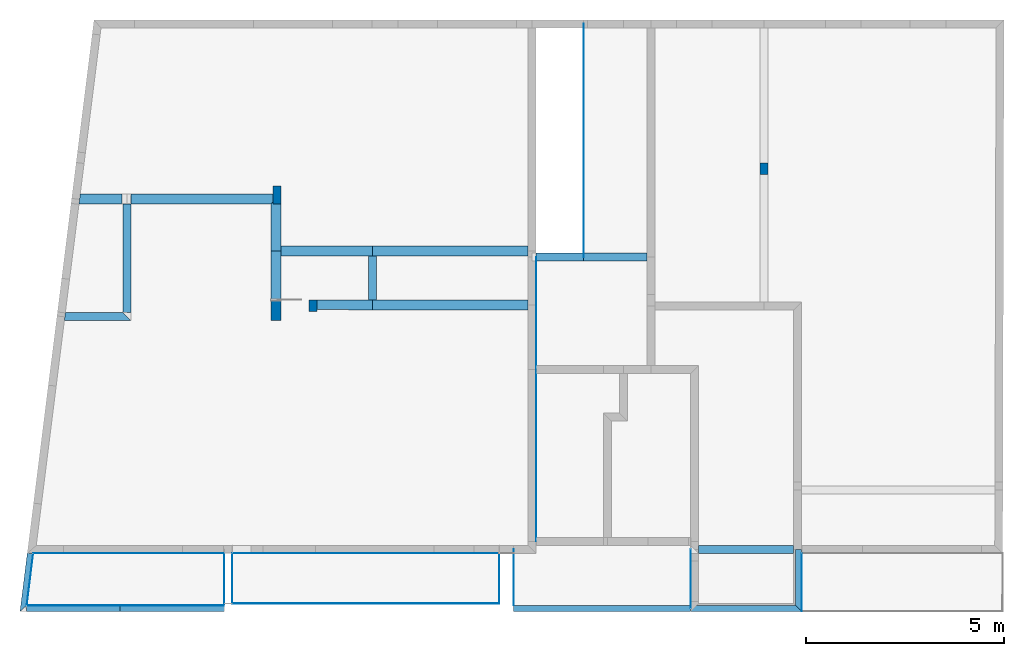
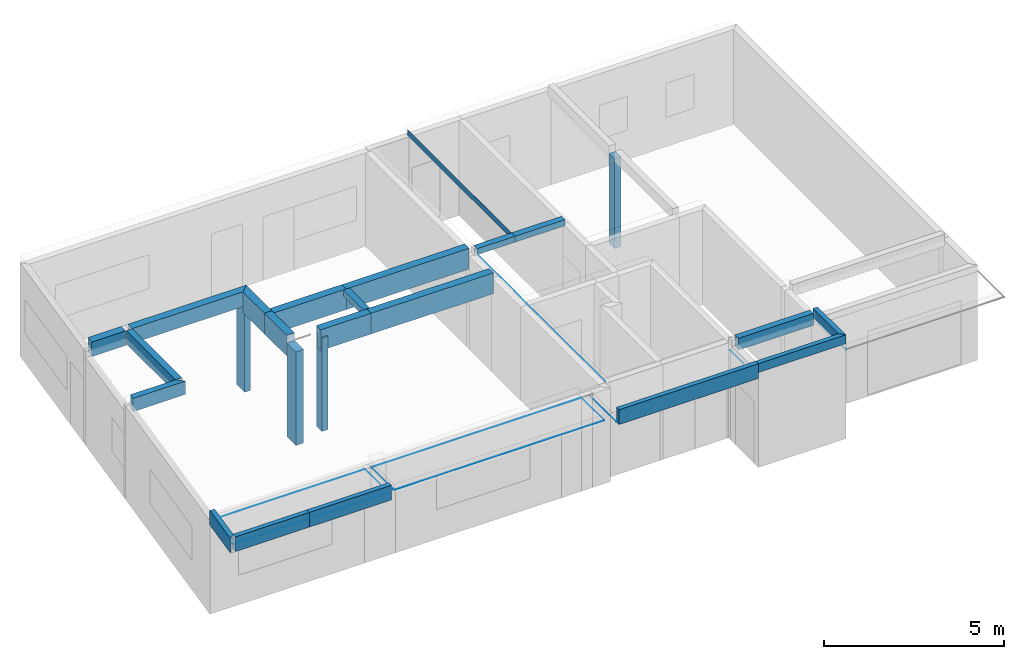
# One storey, part 1 of 17: 34 beams, 4 columns.
"""IFC2X3 building model written with IfcOpenShell, lengths in metres."""

from ifc_helpers import new_model, si_unit, direction, frame, origin_with_axes, origin_2d, place, context, subcontext, project, spatial, polyline, rectangle, outline, extrude, material, type_object, element, save


model = new_model("IFC2X3")

# Units and contexts
model_context = context("Model", 3, precision=0.0001, world=origin_with_axes(), true_north=direction((0.0, 1.0)))
plan_context = context("Plan", 2, precision=0.0001, world=origin_with_axes(), true_north=direction((0.0, 1.0)))
body_context = subcontext(model_context, "Body", "Model", "MODEL_VIEW")
ifc_project = project(units=[si_unit("MASSUNIT", "GRAM", prefix="KILO"), si_unit("AREAUNIT", "SQUARE_METRE"), si_unit("LENGTHUNIT", "METRE"), si_unit("VOLUMEUNIT", "CUBIC_METRE")], contexts=[plan_context, model_context])

# Site, building, storey
site_placement = place(None, origin_with_axes())
site = spatial("IfcSite", under=ifc_project, at=site_placement, Name="$", CompositionType="ELEMENT")
building_placement = place(site_placement, origin_with_axes())
building = spatial("IfcBuilding", under=site, at=building_placement, Name="Classeur ENS Ensemble", CompositionType="ELEMENT")
storey_placement = place(building_placement, frame((-20.30778888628, -1.812671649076, 0.0), z_axis=(0.0, 0.0, 1.0), x_axis=(1.0, 0.0, 0.0)))
storey = spatial("IfcBuildingStorey", under=building, at=storey_placement, Name="001 RdC", CompositionType="ELEMENT", Elevation=0.0)

# Columns
ifc_material = material(Name="Default material")
column_type = type_object("IfcColumnType", PredefinedType="COLUMN")
column_1_placement = place(storey_placement, frame((24.91829531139, -5.537328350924, -0.119999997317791), z_axis=(0.0, 0.0, 1.0), x_axis=(1.0, 0.0, 0.0)))
element("IfcColumn", 1, at=column_1_placement, inside=storey, type_object=column_type, material=ifc_material, Name="Poteau BA", context=body_context, shape_type="SweptSolid", held_by="IfcProductRepresentation", body=[
    extrude(rectangle(XDim=0.25, YDim=0.5, at=origin_2d()), origin_with_axes(), (0.0, 0.0, 1.0), 3.170000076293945),
])
column_2_placement = place(storey_placement, frame((25.85106533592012, -5.417479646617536, -0.119999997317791), z_axis=(0.0, 0.0, 1.0), x_axis=(1.0, 0.0, 0.0)))
element("IfcColumn", 2, at=column_2_placement, inside=storey, type_object=column_type, material=ifc_material, Name="Poteau BA", context=body_context, shape_type="SweptSolid", held_by="IfcProductRepresentation", body=[
    extrude(rectangle(XDim=0.2000000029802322, YDim=0.300000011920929, at=origin_2d()), origin_with_axes(), (0.0, 0.0, 1.0), 3.170000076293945),
])
column_3_placement = place(storey_placement, frame((24.94329531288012, -2.622471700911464, -0.119999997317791), z_axis=(0.0, 0.0, 1.0), x_axis=(1.0, 0.0, 0.0)))
element("IfcColumn", 3, at=column_3_placement, inside=storey, type_object=column_type, material=ifc_material, Name="Poteau BA", context=body_context, shape_type="SweptSolid", held_by="IfcProductRepresentation", body=[
    extrude(rectangle(XDim=0.2000000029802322, YDim=0.449999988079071, at=origin_2d()), origin_with_axes(), (0.0, 0.0, 1.0), 3.170000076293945),
])
column_4_placement = place(storey_placement, frame((37.23329531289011, -1.962328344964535, 0.0), z_axis=(0.0, 0.0, 1.0), x_axis=(1.0, 0.0, 0.0)))
element("IfcColumn", 4, at=column_4_placement, inside=storey, type_object=column_type, material=ifc_material, Name="Poteau BA", context=body_context, shape_type="SweptSolid", held_by="IfcProductRepresentation", body=[
    extrude(rectangle(XDim=0.2000000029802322, YDim=0.300000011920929, at=origin_2d()), origin_with_axes(), (0.0, 0.0, 1.0), 3.049999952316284),
])

# Beams
beam_type = type_object("IfcBeamType", PredefinedType="BEAM")
beam_1_placement = place(storey_placement, frame((24.91829531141, -4.032328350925, 2.599999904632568), z_axis=(0.0, 0.0, 1.0), x_axis=(1.0, 0.0, 0.0)))
element("IfcBeam", 5, at=beam_1_placement, inside=storey, type_object=beam_type, material=ifc_material, Name="poutre BA", context=body_context, shape_type="SweptSolid", held_by="IfcProductRepresentation", body=[
    extrude(outline(polyline([(0.125, 0.125), (0.125, 0.125), (0.125, 0.125), (2.434999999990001, 0.125), (2.434999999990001, 0.125), (2.434999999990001, 0.125), (2.434999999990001, -0.125), (2.334999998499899, -0.125), (2.334999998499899, -0.125), (0.125, -0.125), (0.125, -0.125), (0.125, -0.125), (0.125, 0.125)])), origin_with_axes(), (0.0, 0.0, 1.0), 0.699999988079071),
])
beam_2_placement = place(storey_placement, frame((24.91829531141, -4.032328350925, 2.599999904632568), z_axis=(0.0, 0.0, 1.0), x_axis=(0.0, 1.0, 0.0)))
element("IfcBeam", 6, at=beam_2_placement, inside=storey, type_object=beam_type, material=ifc_material, Name="poutre BA", context=body_context, shape_type="SweptSolid", held_by="IfcProductRepresentation", body=[
    extrude(outline(polyline([(0.0, 0.125), (0.0, 0.125), (0.0, 0.125), (1.184999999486, 0.125), (1.184999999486, 0.125), (1.184999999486, 0.125), (1.434999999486, -0.125), (1.434999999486, -0.125), (1.434999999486, -0.125), (0.125, -0.125), (0.125, -0.125), (0.0, -0.125), (0.0, 0.125)])), origin_with_axes(), (0.0, 0.0, 1.0), 0.699999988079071),
])
beam_3_placement = place(storey_placement, frame((25.75084280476, -5.3924794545, 2.599999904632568), z_axis=(0.0, 0.0, 1.0), x_axis=(0.9999984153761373, -0.001780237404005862, 0.0)))
element("IfcBeam", 7, at=beam_3_placement, inside=storey, type_object=beam_type, material=ifc_material, Name="poutre BA", context=body_context, shape_type="SweptSolid", held_by="IfcProductRepresentation", body=[
    extrude(outline(polyline([(3.557050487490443e-15, 0.1250000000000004), (3.557050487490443e-15, 0.1250000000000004), (3.557050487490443e-15, 0.1250000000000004), (1.502232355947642, 0.1249999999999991), (1.502232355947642, 0.1249999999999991), (1.602455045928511, 0.1250000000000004), (1.602455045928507, -0.1250000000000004), (1.602455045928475, -0.1250000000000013), (1.602455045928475, -0.1250000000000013), (-4.336808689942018e-18, -0.1250000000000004), (-4.336808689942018e-18, -0.1250000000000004), (-4.336808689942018e-18, -0.1250000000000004), (3.557050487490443e-15, 0.1250000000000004)])), origin_with_axes(), (0.0, 0.0, 1.0), 0.699999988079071),
])
beam_4_placement = place(storey_placement, frame((19.86113903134, -2.722328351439, 2.799999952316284), z_axis=(0.0, 0.0, 1.0), x_axis=(1.0, 0.0, 0.0)))
element("IfcBeam", 8, at=beam_4_placement, inside=storey, type_object=beam_type, material=ifc_material, Name="poutre BA", context=body_context, shape_type="SweptSolid", held_by="IfcProductRepresentation", body=[
    extrude(outline(polyline([(0.1164247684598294, 0.125), (0.1164247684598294, 0.125), (0.1164247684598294, 0.125), (1.171206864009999, 0.125), (1.171206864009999, 0.125), (1.171206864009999, 0.125), (1.171206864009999, -0.125), (1.171206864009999, -0.1250000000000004), (1.171206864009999, -0.1250000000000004), (0.0851355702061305, -0.1250000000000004), (0.0851355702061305, -0.1250000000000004), (0.0851355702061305, -0.1250000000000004), (0.1164247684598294, 0.125)])), origin_with_axes(), (0.0, 0.0, 1.0), 0.5),
])
beam_5_placement = place(storey_placement, frame((24.91829531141, -5.267471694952, 2.599999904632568), z_axis=(0.0, 0.0, 1.0), x_axis=(0.0, 1.0, 0.0)))
element("IfcBeam", 9, at=beam_5_placement, inside=storey, type_object=beam_type, material=ifc_material, Name="poutre BA", context=body_context, shape_type="SweptSolid", held_by="IfcProductRepresentation", body=[
    extrude(outline(polyline([(0.0, 0.125), (0.0, 0.125), (0.0, 0.125), (1.235143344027, 0.125), (1.235143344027, 0.125), (1.235143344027, 0.125), (1.235143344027, -0.125), (1.110143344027, -0.125), (1.110143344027, -0.125), (0.0, -0.125), (0.0, -0.125), (0.0, -0.125), (0.0, 0.125)])), origin_with_axes(), (0.0, 0.0, 1.0), 0.699999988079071),
])
beam_6_placement = place(storey_placement, frame((38.18329531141, -13.13232835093, 2.900000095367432), z_axis=(0.0, 0.0, 1.0), x_axis=(0.0, 1.0, 0.0)))
element("IfcBeam", 10, at=beam_6_placement, inside=storey, type_object=beam_type, material=ifc_material, Name="poutre fictive", context=body_context, shape_type="SweptSolid", held_by="IfcProductRepresentation", body=[
    extrude(outline(polyline([(0.0, 0.0009999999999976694), (0.0, 0.0009999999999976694), (0.0, 0.0009999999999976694), (1.465000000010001, 0.0009999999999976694), (1.465000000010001, 0.0009999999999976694), (1.465000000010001, 0.0009999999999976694), (1.465000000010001, -0.001000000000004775), (1.465000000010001, -0.001000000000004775), (1.465000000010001, -0.001000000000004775), (0.0, -0.001000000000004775), (0.0, -0.001000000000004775), (0.0, -0.001000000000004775), (0.0, 0.0009999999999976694)])), origin_with_axes(), (0.0, 0.0, 1.0), 0.001),
])
beam_7_placement = place(storey_placement, frame((32.6832953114, -4.191140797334, 3.099999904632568), z_axis=(0.0, 0.0, 1.0), x_axis=(-1.342671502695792e-10, 1.0, 0.0)))
element("IfcBeam", 11, at=beam_7_placement, inside=storey, type_object=beam_type, material=ifc_material, Name="Poutre auto", context=body_context, shape_type="SweptSolid", held_by="IfcProductRepresentation", body=[
    extrude(outline(polyline([(1.522088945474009e-16, 0.0009999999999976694), (1.522088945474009e-16, 0.0009999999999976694), (1.522088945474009e-16, 0.0009999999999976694), (5.88381244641, 0.0009999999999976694), (5.88381244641, 0.0009999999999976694), (5.88381244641, 0.0009999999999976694), (5.88381244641, -0.0009999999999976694), (5.88381244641, -0.0009999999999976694), (5.88381244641, -0.0009999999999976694), (7.359695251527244e-16, -0.0009999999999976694), (7.359695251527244e-16, -0.0009999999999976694), (7.359695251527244e-16, -0.0009999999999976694), (1.522088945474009e-16, 0.0009999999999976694)])), origin_with_axes(), (0.0, 0.0, 1.0), 0.2000000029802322),
])
beam_8_placement = place(storey_placement, frame((21.2532953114, -2.722328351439, 2.799999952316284), z_axis=(0.0, 0.0, 1.0), x_axis=(0.9999999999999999, 0.0, 0.0)))
element("IfcBeam", 12, at=beam_8_placement, inside=storey, type_object=beam_type, material=ifc_material, Name="poutre BA", context=body_context, shape_type="SweptSolid", held_by="IfcProductRepresentation", body=[
    extrude(outline(polyline([(0.0, 0.125), (0.0, 0.125), (0.0, 0.125), (3.790000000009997, 0.125), (3.790000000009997, 0.125), (3.790000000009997, 0.125), (3.540000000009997, -0.125), (3.540000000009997, -0.125), (3.540000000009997, -0.125), (0.0, -0.125), (0.0, -0.125), (0.0, -0.125), (0.0, 0.125)])), origin_with_axes(), (0.0, 0.0, 1.0), 0.5),
])
beam_9_placement = place(storey_placement, frame((19.49004914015, -5.687328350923, 2.849999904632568), z_axis=(0.0, 0.0, 1.0), x_axis=(1.0, 0.0, 0.0)))
element("IfcBeam", 13, at=beam_9_placement, inside=storey, type_object=beam_type, material=ifc_material, Name="poutre BA", context=body_context, shape_type="SweptSolid", held_by="IfcProductRepresentation", body=[
    extrude(outline(polyline([(0.1132958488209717, 0.1000000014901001), (0.1132958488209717, 0.1000000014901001), (0.1132958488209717, 0.1000000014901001), (1.5632461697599, 0.1000000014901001), (1.5632461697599, 0.1000000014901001), (1.5632461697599, 0.1000000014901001), (1.763246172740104, -0.1000000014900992), (1.763246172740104, -0.1000000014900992), (1.763246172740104, -0.1000000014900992), (0.08826448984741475, -0.1000000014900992), (0.08826448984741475, -0.1000000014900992), (0.08826448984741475, -0.1000000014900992), (0.1132958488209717, 0.1000000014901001)])), origin_with_axes(), (0.0, 0.0, 1.0), 0.449999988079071),
])
beam_10_placement = place(storey_placement, frame((21.1532953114, -5.587328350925, 2.849999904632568), z_axis=(0.0, 0.0, 1.0), x_axis=(0.0, 1.0, 0.0)))
element("IfcBeam", 14, at=beam_10_placement, inside=storey, type_object=beam_type, material=ifc_material, Name="poutre BA", context=body_context, shape_type="SweptSolid", held_by="IfcProductRepresentation", body=[
    extrude(outline(polyline([(0.0, 0.1000000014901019), (0.0, 0.1000000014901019), (0.0, 0.1000000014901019), (2.740016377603, 0.1000000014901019), (2.740016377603, 0.1000000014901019), (2.740016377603, 0.1000000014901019), (2.740016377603, -0.1000000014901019), (2.740016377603, -0.1000000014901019), (2.740016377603, -0.1000000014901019), (0.0, -0.1000000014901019), (0.0, -0.1000000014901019), (0.0, -0.1000000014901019), (0.0, 0.1000000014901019)])), origin_with_axes(), (0.0, 0.0, 1.0), 0.449999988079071),
])
beam_11_placement = place(storey_placement, frame((32.6832953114, -4.191140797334, 3.099999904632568), z_axis=(0.0, 0.0, 1.0), x_axis=(0.9999999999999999, 0.0, 0.0)))
element("IfcBeam", 15, at=beam_11_placement, inside=storey, type_object=beam_type, material=ifc_material, Name="poutre BA", context=body_context, shape_type="SweptSolid", held_by="IfcProductRepresentation", body=[
    extrude(outline(polyline([(0.0, 0.1000000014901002), (0.0, 0.1000000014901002), (0.0, 0.1000000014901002), (1.599999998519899, 0.1000000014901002), (1.599999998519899, 0.1000000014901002), (1.599999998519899, 0.1000000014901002), (1.599999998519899, -0.1000000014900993), (1.599999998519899, -0.1000000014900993), (1.599999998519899, -0.1000000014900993), (0.0, -0.1000000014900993), (0.0, -0.1000000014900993), (0.0, -0.1000000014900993), (0.0, 0.1000000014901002)])), origin_with_axes(), (0.0, 0.0, 1.0), 0.2000000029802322),
])
beam_12_placement = place(storey_placement, frame((31.4832953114, -7.027328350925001, 3.099999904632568), z_axis=(0.0, 0.0, 1.0), x_axis=(0.0, 1.0, 0.0)))
element("IfcBeam", 16, at=beam_12_placement, inside=storey, type_object=beam_type, material=ifc_material, Name="poutre fictive 310", context=body_context, shape_type="SweptSolid", held_by="IfcProductRepresentation", body=[
    extrude(outline(polyline([(0.0, 0.001000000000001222), (0.0, 0.001000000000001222), (0.0, 0.001000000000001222), (2.836187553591, 0.001000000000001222), (2.836187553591, 0.001000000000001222), (2.836187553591, 0.001000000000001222), (2.836187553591, -0.0009999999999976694), (2.836187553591, -0.0009999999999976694), (2.836187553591, -0.0009999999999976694), (0.0, -0.0009999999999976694), (0.0, -0.0009999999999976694), (0.0, -0.0009999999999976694), (0.0, 0.001000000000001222)])), origin_with_axes(), (0.0, 0.0, 1.0), 0.001),
])
beam_13_placement = place(storey_placement, frame((31.4832953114, -4.191140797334, 3.099999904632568), z_axis=(0.0, 0.0, 1.0), x_axis=(1.0, 0.0, 0.0)))
element("IfcBeam", 17, at=beam_13_placement, inside=storey, type_object=beam_type, material=ifc_material, Name="poutre BA", context=body_context, shape_type="SweptSolid", held_by="IfcProductRepresentation", body=[
    extrude(outline(polyline([(0.0, 0.1000000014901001), (0.0, 0.1000000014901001), (0.0, 0.1000000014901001), (1.199999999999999, 0.1000000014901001), (1.199999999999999, 0.1000000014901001), (1.199999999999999, 0.1000000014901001), (1.199999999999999, -0.1000000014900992), (1.199999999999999, -0.1000000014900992), (1.199999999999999, -0.1000000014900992), (0.0, -0.1000000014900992), (0.0, -0.1000000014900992), (0.0, -0.1000000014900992), (0.0, 0.1000000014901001)])), origin_with_axes(), (0.0, 0.0, 1.0), 0.2000000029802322),
])
beam_14_placement = place(storey_placement, frame((31.4832953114, -11.36732835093, 3.099999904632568), z_axis=(0.0, 0.0, 1.0), x_axis=(0.0, 1.0, 0.0)))
element("IfcBeam", 18, at=beam_14_placement, inside=storey, type_object=beam_type, material=ifc_material, Name="poutre fictive 310", context=body_context, shape_type="SweptSolid", held_by="IfcProductRepresentation", body=[
    extrude(outline(polyline([(0.0, 0.001000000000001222), (0.0, 0.001000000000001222), (0.0, 0.001000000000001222), (4.340000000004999, 0.001000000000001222), (4.340000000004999, 0.001000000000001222), (4.340000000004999, 0.001000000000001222), (4.340000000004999, -0.0009999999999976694), (4.340000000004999, -0.0009999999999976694), (4.340000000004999, -0.0009999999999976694), (0.0, -0.0009999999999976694), (0.0, -0.0009999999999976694), (0.0, -0.0009999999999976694), (0.0, 0.001000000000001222)])), origin_with_axes(), (0.0, 0.0, 1.0), 0.001),
])
beam_15_placement = place(storey_placement, frame((27.3532953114, -5.395332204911, 3.099999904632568), z_axis=(0.0, 0.0, 1.0), x_axis=(0.0, 1.0, 0.0)))
element("IfcBeam", 19, at=beam_15_placement, inside=storey, type_object=beam_type, material=ifc_material, Name="Bande noyée 20 x 20", context=body_context, shape_type="SweptSolid", held_by="IfcProductRepresentation", body=[
    extrude(outline(polyline([(0.1251782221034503, 0.1000000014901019), (0.1251782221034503, 0.1000000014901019), (0.1251782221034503, 0.1000000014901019), (1.238003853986, 0.1000000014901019), (1.238003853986, 0.1000000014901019), (1.238003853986, 0.1000000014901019), (1.238003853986, -0.1000000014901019), (1.238003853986, -0.1000000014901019), (1.238003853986, -0.1000000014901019), (0.1248221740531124, -0.1000000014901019), (0.1248221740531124, -0.1000000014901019), (0.1248221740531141, -0.1000000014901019), (0.1251782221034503, 0.1000000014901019)])), origin_with_axes(), (0.0, 0.0, 1.0), 0.2000000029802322),
])
beam_16_placement = place(storey_placement, frame((27.3532953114, -4.032328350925, 2.599999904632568), z_axis=(0.0, 0.0, 1.0), x_axis=(1.0, 0.0, 0.0)))
element("IfcBeam", 20, at=beam_16_placement, inside=storey, type_object=beam_type, material=ifc_material, Name="poutre BA", context=body_context, shape_type="SweptSolid", held_by="IfcProductRepresentation", body=[
    extrude(outline(polyline([(0.0, 0.125), (0.0, 0.125), (0.0, 0.125), (3.929999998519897, 0.125), (3.929999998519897, 0.125), (3.929999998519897, 0.125), (3.929999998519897, -0.125), (3.929999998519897, -0.125), (3.929999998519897, -0.125), (0.1000000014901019, -0.125), (0.1000000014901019, -0.125), (0.0, -0.125), (0.0, 0.125)])), origin_with_axes(), (0.0, 0.0, 1.0), 0.699999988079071),
])
beam_17_placement = place(storey_placement, frame((27.3532953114, -5.395332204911, 2.599999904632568), z_axis=(0.0, 0.0, 1.0), x_axis=(0.9999984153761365, -0.001780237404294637, 0.0)))
element("IfcBeam", 21, at=beam_17_placement, inside=storey, type_object=beam_type, material=ifc_material, Name="poutre BA", context=body_context, shape_type="SweptSolid", held_by="IfcProductRepresentation", body=[
    extrude(outline(polyline([(-5.655469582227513e-16, 0.1250000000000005), (0.09977762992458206, 0.1250000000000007), (0.09977762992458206, 0.1250000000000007), (3.929783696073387, 0.1250000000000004), (3.929783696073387, 0.1250000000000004), (3.929783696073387, 0.1250000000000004), (3.930228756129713, -0.1250000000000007), (3.930228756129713, -0.1250000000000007), (3.930228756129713, -0.1250000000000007), (3.609262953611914e-14, -0.1250000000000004), (3.609262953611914e-14, -0.1250000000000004), (4.118260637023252e-15, -0.1250000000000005), (-5.655469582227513e-16, 0.1250000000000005)])), origin_with_axes(), (0.0, 0.0, 1.0), 0.699999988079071),
])
beam_18_placement = place(storey_placement, frame((18.54244853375, -13.05732835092, 2.900000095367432), z_axis=(0.0, 0.0, 1.0), x_axis=(0.1241879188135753, 0.99225871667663, 0.0)))
element("IfcBeam", 22, at=beam_18_placement, inside=storey, type_object=beam_type, material=ifc_material, Name="poutre BA rive balcon", context=body_context, shape_type="SweptSolid", held_by="IfcProductRepresentation", body=[
    extrude(outline(polyline([(-0.08497188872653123, 0.0750000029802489), (-0.08497188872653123, 0.0750000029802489), (-0.08497188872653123, 0.0750000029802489), (1.400844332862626, 0.07500000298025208), (1.400844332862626, 0.07500000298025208), (1.400844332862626, 0.07500000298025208), (1.400844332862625, -0.07500000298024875), (1.400844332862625, -0.07500000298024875), (1.400844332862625, -0.07500000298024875), (0.084971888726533, -0.07500000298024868), (0.084971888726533, -0.07500000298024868), (0.08497188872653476, -0.07500000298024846), (-0.08497188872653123, 0.0750000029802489)])), origin_with_axes(), (0.0, 0.0, 1.0), 0.5),
])
beam_19_placement = place(storey_placement, frame((20.98204339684, -13.05732835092, 2.900000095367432), z_axis=(0.0, 0.0, 1.0), x_axis=(1.0, 0.0, 0.0)))
element("IfcBeam", 23, at=beam_19_placement, inside=storey, type_object=beam_type, material=ifc_material, Name="poutre BA rive balcon", context=body_context, shape_type="SweptSolid", held_by="IfcProductRepresentation", body=[
    extrude(outline(polyline([(0.0, 0.07500000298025), (0.0, 0.07500000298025), (0.0, 0.07500000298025), (2.631251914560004, 0.07500000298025), (2.631251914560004, 0.07500000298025), (2.631251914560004, 0.07500000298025), (2.631251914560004, -0.07500000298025), (2.631251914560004, -0.07500000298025), (2.631251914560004, -0.07500000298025), (0.0, -0.07500000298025), (0.0, -0.07500000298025), (0.0, -0.07500000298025), (0.0, 0.07500000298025)])), origin_with_axes(), (0.0, 0.0, 1.0), 0.5),
])
beam_20_placement = place(storey_placement, frame((30.91343654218, -13.05732835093, 2.900000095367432), z_axis=(0.0, 0.0, 1.0), x_axis=(0.9999999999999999, 0.0, 0.0)))
element("IfcBeam", 24, at=beam_20_placement, inside=storey, type_object=beam_type, material=ifc_material, Name="poutre BA rive balcon", context=body_context, shape_type="SweptSolid", held_by="IfcProductRepresentation", body=[
    extrude(outline(polyline([(0.0, 0.07500000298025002), (0.0, 0.07500000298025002), (0.0, 0.07500000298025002), (4.469858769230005, 0.07500000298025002), (4.469858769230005, 0.07500000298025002), (4.469858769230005, 0.07500000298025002), (4.469858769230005, -0.07500000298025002), (4.469858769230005, -0.07500000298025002), (4.469858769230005, -0.07500000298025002), (0.0, -0.07500000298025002), (0.0, -0.07500000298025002), (0.0, -0.07500000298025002), (0.0, 0.07500000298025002)])), origin_with_axes(), (0.0, 0.0, 1.0), 0.5),
])
beam_21_placement = place(storey_placement, frame((30.91343654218, -12.98232835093, 2.900000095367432), z_axis=(0.0, 0.0, 1.0), x_axis=(0.000549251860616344, 0.9999998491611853, 0.0)))
element("IfcBeam", 25, at=beam_21_placement, inside=storey, type_object=beam_type, material=ifc_material, Name="poutre fictive 290", context=body_context, shape_type="SweptSolid", held_by="IfcProductRepresentation", body=[
    extrude(outline(polyline([(1.154266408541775e-15, 0.00099999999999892), (1.154266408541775e-15, 0.00099999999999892), (1.154266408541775e-15, 0.00099999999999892), (1.415000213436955, 0.001000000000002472), (1.415000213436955, 0.001000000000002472), (1.415000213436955, 0.001000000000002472), (1.415000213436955, -0.001000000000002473), (1.415000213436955, -0.001000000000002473), (1.415000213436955, -0.001000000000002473), (6.240414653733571e-16, -0.001000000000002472), (6.240414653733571e-16, -0.001000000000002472), (6.240414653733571e-16, -0.001000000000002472), (1.154266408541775e-15, 0.00099999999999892)])), origin_with_axes(), (0.0, 0.0, 1.0), 0.001),
])
beam_22_placement = place(storey_placement, frame((35.3832953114, -13.05732835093, 2.900000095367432), z_axis=(0.0, 0.0, 1.0), x_axis=(0.0, 1.0, 0.0)))
element("IfcBeam", 26, at=beam_22_placement, inside=storey, type_object=beam_type, material=ifc_material, Name="poutre fictive 290", context=body_context, shape_type="SweptSolid", held_by="IfcProductRepresentation", body=[
    extrude(outline(polyline([(0.0, 0.0009999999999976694), (0.0, 0.0009999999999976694), (0.0, 0.0009999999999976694), (1.490000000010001, 0.0009999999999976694), (1.490000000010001, 0.0009999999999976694), (1.490000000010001, 0.0009999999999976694), (1.490000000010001, -0.0009999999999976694), (1.490000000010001, -0.0009999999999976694), (1.490000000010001, -0.0009999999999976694), (0.0, -0.0009999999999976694), (0.0, -0.0009999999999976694), (0.0, -0.0009999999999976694), (0.0, 0.0009999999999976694)])), origin_with_axes(), (0.0, 0.0, 1.0), 0.001),
])
beam_23_placement = place(storey_placement, frame((18.61803365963, -13.05732835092, 2.900000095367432), z_axis=(0.0, 0.0, 1.0), x_axis=(1.0, 0.0, 0.0)))
element("IfcBeam", 27, at=beam_23_placement, inside=storey, type_object=beam_type, material=ifc_material, Name="poutre BA rive balcon", context=body_context, shape_type="SweptSolid", held_by="IfcProductRepresentation", body=[
    extrude(outline(polyline([(0.0, 0.07500000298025), (0.0, 0.07500000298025), (0.0, 0.07500000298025), (2.364009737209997, 0.07500000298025), (2.364009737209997, 0.07500000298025), (2.364009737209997, 0.07500000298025), (2.364009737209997, -0.07500000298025), (2.364009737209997, -0.07500000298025), (2.364009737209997, -0.07500000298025), (0.0, -0.07500000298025), (0.0, -0.07500000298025), (0.0, -0.07500000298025), (0.0, 0.07500000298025)])), origin_with_axes(), (0.0, 0.0, 1.0), 0.5),
])
beam_24_placement = place(storey_placement, frame((18.7920016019, -11.66732835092, 3.059999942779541), z_axis=(0.0, 0.0, 1.0), x_axis=(1.0, 0.0, 0.0)))
element("IfcBeam", 28, at=beam_24_placement, inside=storey, type_object=beam_type, material=ifc_material, Name="poutre fictive 306", context=body_context, shape_type="SweptSolid", held_by="IfcProductRepresentation", body=[
    extrude(outline(polyline([(0.0, 0.0009999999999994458), (0.0, 0.0009999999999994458), (0.0, 0.0009999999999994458), (4.821293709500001, 0.0009999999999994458), (4.821293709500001, 0.0009999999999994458), (4.821293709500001, 0.0009999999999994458), (4.821293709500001, -0.001000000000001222), (4.821293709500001, -0.001000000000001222), (4.821293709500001, -0.001000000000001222), (0.0, -0.001000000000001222), (0.0, -0.001000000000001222), (0.0, -0.001000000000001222), (0.0, 0.0009999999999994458)])), origin_with_axes(), (0.0, 0.0, 1.0), 0.001),
])
beam_25_placement = place(storey_placement, frame((18.6274204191, -12.98232835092, 3.059999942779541), z_axis=(0.0, 0.0, 1.0), x_axis=(1.0, 0.0, 0.0)))
element("IfcBeam", 29, at=beam_25_placement, inside=storey, type_object=beam_type, material=ifc_material, Name="poutre fictive 306", context=body_context, shape_type="SweptSolid", held_by="IfcProductRepresentation", body=[
    extrude(outline(polyline([(0.0, 0.001000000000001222), (0.0, 0.001000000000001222), (0.0, 0.001000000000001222), (4.985874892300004, 0.001000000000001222), (4.985874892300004, 0.001000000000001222), (4.985874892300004, 0.001000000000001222), (4.985874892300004, -0.0009999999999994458), (4.985874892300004, -0.0009999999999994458), (4.985874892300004, -0.0009999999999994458), (0.0, -0.0009999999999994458), (0.0, -0.0009999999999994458), (0.0, -0.0009999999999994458), (0.0, 0.001000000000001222)])), origin_with_axes(), (0.0, 0.0, 1.0), 0.001),
])
beam_26_placement = place(storey_placement, frame((23.6132953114, -12.98232835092, 3.059999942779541), z_axis=(0.0, 0.0, 1.0), x_axis=(0.0, 1.0, 0.0)))
element("IfcBeam", 30, at=beam_26_placement, inside=storey, type_object=beam_type, material=ifc_material, Name="poutre fictive 306", context=body_context, shape_type="SweptSolid", held_by="IfcProductRepresentation", body=[
    extrude(outline(polyline([(0.0, 0.001000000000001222), (0.0, 0.001000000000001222), (0.0, 0.001000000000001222), (1.315000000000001, 0.001000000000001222), (1.315000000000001, 0.001000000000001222), (1.315000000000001, 0.001000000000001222), (1.315000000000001, -0.0009999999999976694), (1.315000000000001, -0.0009999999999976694), (1.315000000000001, -0.0009999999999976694), (0.0, -0.0009999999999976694), (0.0, -0.0009999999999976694), (0.0, -0.0009999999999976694), (0.0, 0.001000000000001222)])), origin_with_axes(), (0.0, 0.0, 1.0), 0.001),
])
beam_27_placement = place(storey_placement, frame((18.6274204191, -12.98232835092, 3.059999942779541), z_axis=(0.0, 0.0, 1.0), x_axis=(0.1241879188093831, 0.9922587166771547, 0.0)))
element("IfcBeam", 31, at=beam_27_placement, inside=storey, type_object=beam_type, material=ifc_material, Name="poutre fictive 306", context=body_context, shape_type="SweptSolid", held_by="IfcProductRepresentation", body=[
    extrude(outline(polyline([(-1.230569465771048e-16, 0.0009999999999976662), (-1.230569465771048e-16, 0.0009999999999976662), (-1.230569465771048e-16, 0.0009999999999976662), (1.325259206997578, 0.001000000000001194), (1.325259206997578, 0.001000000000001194), (1.325259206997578, 0.001000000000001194), (1.325259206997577, -0.0009999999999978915), (1.325259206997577, -0.0009999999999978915), (1.325259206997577, -0.0009999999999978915), (5.642730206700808e-16, -0.001000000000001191), (5.642730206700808e-16, -0.001000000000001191), (5.642730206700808e-16, -0.001000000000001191), (-1.230569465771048e-16, 0.0009999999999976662)])), origin_with_axes(), (0.0, 0.0, 1.0), 0.001),
])
beam_28_placement = place(storey_placement, frame((30.5532953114, -12.93232835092, 3.049999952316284), z_axis=(0.0, 0.0, 1.0), x_axis=(0.0, 1.0, 0.0)))
element("IfcBeam", 32, at=beam_28_placement, inside=storey, type_object=beam_type, material=ifc_material, Name="poutre fictive 305", context=body_context, shape_type="SweptSolid", held_by="IfcProductRepresentation", body=[
    extrude(outline(polyline([(0.0, 0.0009999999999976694), (0.0, 0.0009999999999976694), (0.0, 0.0009999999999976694), (1.265000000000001, 0.0009999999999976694), (1.265000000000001, 0.0009999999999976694), (1.265000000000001, 0.0009999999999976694), (1.265000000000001, -0.001000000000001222), (1.265000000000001, -0.001000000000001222), (1.265000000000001, -0.001000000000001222), (0.0, -0.001000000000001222), (0.0, -0.001000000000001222), (0.0, -0.001000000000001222), (0.0, 0.0009999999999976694)])), origin_with_axes(), (0.0, 0.0, 1.0), 0.001),
])
beam_29_placement = place(storey_placement, frame((23.8132953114, -11.66732835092, 3.049999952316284), z_axis=(0.0, 0.0, 1.0), x_axis=(1.0, 0.0, 0.0)))
element("IfcBeam", 33, at=beam_29_placement, inside=storey, type_object=beam_type, material=ifc_material, Name="poutre fictive 305", context=body_context, shape_type="SweptSolid", held_by="IfcProductRepresentation", body=[
    extrude(outline(polyline([(0.0, 0.0009999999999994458), (0.0, 0.0009999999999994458), (0.0, 0.0009999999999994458), (6.739999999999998, 0.0009999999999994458), (6.739999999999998, 0.0009999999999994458), (6.739999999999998, 0.0009999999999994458), (6.739999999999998, -0.001000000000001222), (6.739999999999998, -0.001000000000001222), (6.739999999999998, -0.001000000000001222), (0.0, -0.001000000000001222), (0.0, -0.001000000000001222), (0.0, -0.001000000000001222), (0.0, 0.0009999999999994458)])), origin_with_axes(), (0.0, 0.0, 1.0), 0.001),
])
beam_30_placement = place(storey_placement, frame((23.8132953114, -12.93232835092, 3.049999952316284), z_axis=(0.0, 0.0, 1.0), x_axis=(0.0, 1.0, 0.0)))
element("IfcBeam", 34, at=beam_30_placement, inside=storey, type_object=beam_type, material=ifc_material, Name="poutre fictive 305", context=body_context, shape_type="SweptSolid", held_by="IfcProductRepresentation", body=[
    extrude(outline(polyline([(0.0, 0.001000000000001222), (0.0, 0.001000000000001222), (0.0, 0.001000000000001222), (1.265000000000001, 0.001000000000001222), (1.265000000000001, 0.001000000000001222), (1.265000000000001, 0.001000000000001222), (1.265000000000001, -0.001000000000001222), (1.265000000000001, -0.001000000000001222), (1.265000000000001, -0.001000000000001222), (0.0, -0.001000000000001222), (0.0, -0.001000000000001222), (0.0, -0.001000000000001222), (0.0, 0.001000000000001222)])), origin_with_axes(), (0.0, 0.0, 1.0), 0.001),
])
beam_31_placement = place(storey_placement, frame((23.8132953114, -12.93232835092, 3.049999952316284), z_axis=(0.0, 0.0, 1.0), x_axis=(1.0, 0.0, 0.0)))
element("IfcBeam", 35, at=beam_31_placement, inside=storey, type_object=beam_type, material=ifc_material, Name="poutre fictive 305", context=body_context, shape_type="SweptSolid", held_by="IfcProductRepresentation", body=[
    extrude(outline(polyline([(0.0, 0.0009999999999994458), (0.0, 0.0009999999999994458), (0.0, 0.0009999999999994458), (6.739999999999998, 0.0009999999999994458), (6.739999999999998, 0.0009999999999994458), (6.739999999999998, 0.0009999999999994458), (6.739999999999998, -0.0009999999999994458), (6.739999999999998, -0.0009999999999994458), (6.739999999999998, -0.0009999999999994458), (0.0, -0.0009999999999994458), (0.0, -0.0009999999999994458), (0.0, -0.0009999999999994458), (0.0, 0.0009999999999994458)])), origin_with_axes(), (0.0, 0.0, 1.0), 0.001),
])
beam_32_placement = place(storey_placement, frame((35.48329531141, -11.56732835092, 2.900000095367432), z_axis=(0.0, 0.0, 1.0), x_axis=(1.0, 0.0, 0.0)))
element("IfcBeam", 36, at=beam_32_placement, inside=storey, type_object=beam_type, material=ifc_material, Name="poutre BA 20 x 40", context=body_context, shape_type="SweptSolid", held_by="IfcProductRepresentation", body=[
    extrude(outline(polyline([(0.1000000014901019, 0.1000000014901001), (-0.1000000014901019, 0.1000000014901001), (-0.1000000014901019, 0.1000000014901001), (2.4999999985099, 0.1000000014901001), (2.4999999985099, 0.1000000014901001), (2.4999999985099, 0.1000000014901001), (2.4999999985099, -0.1000000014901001), (2.4999999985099, -0.1000000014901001), (2.4999999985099, -0.1000000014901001), (-0.1000000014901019, -0.1000000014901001), (-0.1000000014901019, -0.1000000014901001), (0.1000000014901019, -0.1000000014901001), (0.1000000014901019, 0.1000000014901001)])), origin_with_axes(), (0.0, 0.0, 1.0), 0.4000000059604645),
])
beam_33_placement = place(storey_placement, frame((35.3832953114, -13.05732835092, 3.099999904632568), z_axis=(0.0, 0.0, 1.0), x_axis=(1.0, 0.0, 0.0)))
element("IfcBeam", 37, at=beam_33_placement, inside=storey, type_object=beam_type, material=ifc_material, Name="poutre BA rive balcon", context=body_context, shape_type="SweptSolid", held_by="IfcProductRepresentation", body=[
    extrude(outline(polyline([(0.0, 0.07500000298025), (0.0, 0.07500000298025), (0.0, 0.07500000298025), (2.649999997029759, 0.07500000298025), (2.649999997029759, 0.07500000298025), (2.649999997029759, 0.07500000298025), (2.800000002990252, -0.07500000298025), (2.800000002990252, -0.07500000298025), (2.800000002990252, -0.07500000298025), (0.0, -0.07500000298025), (0.0, -0.07500000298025), (0.0, -0.07500000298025), (0.0, 0.07500000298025)])), origin_with_axes(), (0.0, 0.0, 1.0), 0.300000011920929),
])
beam_34_placement = place(storey_placement, frame((38.10829531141, -13.05732835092, 3.099999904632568), z_axis=(0.0, 0.0, 1.0), x_axis=(0.0, 1.0, 0.0)))
element("IfcBeam", 38, at=beam_34_placement, inside=storey, type_object=beam_type, material=ifc_material, Name="poutre BA rive balcon", context=body_context, shape_type="SweptSolid", held_by="IfcProductRepresentation", body=[
    extrude(outline(polyline([(0.07500000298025, 0.07500000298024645), (0.07500000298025, 0.07500000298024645), (0.07500000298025, 0.07500000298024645), (1.489999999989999, 0.07500000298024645), (1.489999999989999, 0.07500000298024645), (1.489999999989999, 0.07500000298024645), (1.489999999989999, -0.07500000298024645), (1.489999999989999, -0.07500000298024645), (1.489999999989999, -0.07500000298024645), (-0.07500000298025, -0.07500000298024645), (-0.07500000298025, -0.07500000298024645), (-0.07500000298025, -0.07500000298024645), (0.07500000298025, 0.07500000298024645)])), origin_with_axes(), (0.0, 0.0, 1.0), 0.300000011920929),
])

save(model, "model.ifc")
